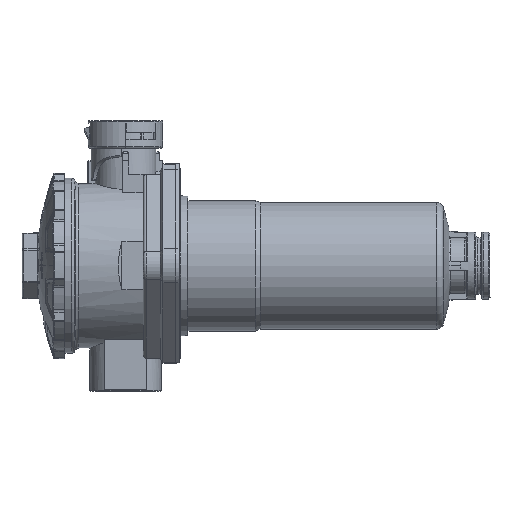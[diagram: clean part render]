
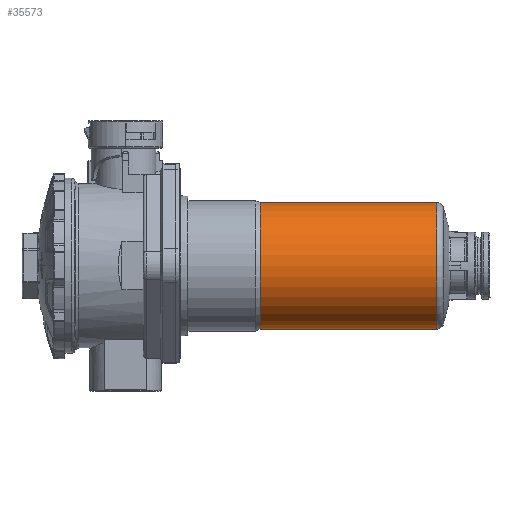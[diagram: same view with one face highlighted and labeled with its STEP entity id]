
A CAD part, top view. The second image highlights one B-rep face of the part: STEP entity #35573.
In plain terms, the highlighted cylindrical face has radius 35.5 mm (diameter 71 mm), a partial arc.
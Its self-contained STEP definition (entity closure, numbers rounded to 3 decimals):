
#7324=CARTESIAN_POINT('',(109.347,0.,0.));
#7325=DIRECTION('',(1.,0.,0.));
#7326=DIRECTION('',(0.,1.,0.));
#7327=AXIS2_PLACEMENT_3D('',#7324,#7325,#7326);
#7339=DIRECTION('',(-1.,0.,0.));
#7340=VECTOR('',#7339,98.798);
#7341=CARTESIAN_POINT('',(208.145,-35.5,
0.));
#7342=LINE('',#7341,#7340);
#7346=DIRECTION('',(-1.,0.,0.));
#7347=VECTOR('',#7346,98.798);
#7348=CARTESIAN_POINT('',(208.145,35.5,
-0.004));
#7349=LINE('',#7348,#7347);
#7385=CARTESIAN_POINT('',(208.145,0.,
0.));
#7386=DIRECTION('',(-1.,0.,0.));
#7387=DIRECTION('',(0.,-1.,0.));
#7388=AXIS2_PLACEMENT_3D('',#7385,#7386,#7387);
#27681=CARTESIAN_POINT('',(109.347,-35.5,0.));
#27682=VERTEX_POINT('',#27681);
#27683=CARTESIAN_POINT('',(109.347,35.5,0.));
#27684=VERTEX_POINT('',#27683);
#27685=CARTESIAN_POINT('',(208.145,35.5,
-0.004));
#27686=VERTEX_POINT('',#27685);
#27687=CARTESIAN_POINT('',(208.145,-35.5,
0.));
#27688=VERTEX_POINT('',#27687);
#35559=CARTESIAN_POINT('',(160.281,0.,0.));
#35560=DIRECTION('',(1.,0.,0.));
#35561=DIRECTION('',(0.,-1.,0.));
#35562=AXIS2_PLACEMENT_3D('',#35559,#35560,#35561);
#35563=CYLINDRICAL_SURFACE('',#35562,35.5);
#35564=ORIENTED_EDGE('',*,*,#35546,.F.);
#35566=ORIENTED_EDGE('',*,*,#35565,.F.);
#35568=ORIENTED_EDGE('',*,*,#35567,.F.);
#35570=ORIENTED_EDGE('',*,*,#35569,.T.);
#35571=EDGE_LOOP('',(#35564,#35566,#35568,#35570));
#35572=FACE_OUTER_BOUND('',#35571,.F.);
#7328=CIRCLE('',#7327,35.5);
#7389=CIRCLE('',#7388,35.5);
#35546=EDGE_CURVE('',#27684,#27682,#7328,.T.);
#35565=EDGE_CURVE('',#27686,#27684,#7349,.T.);
#35567=EDGE_CURVE('',#27688,#27686,#7389,.T.);
#35569=EDGE_CURVE('',#27688,#27682,#7342,.T.);
#35573=ADVANCED_FACE('',(#35572),#35563,.T.);
